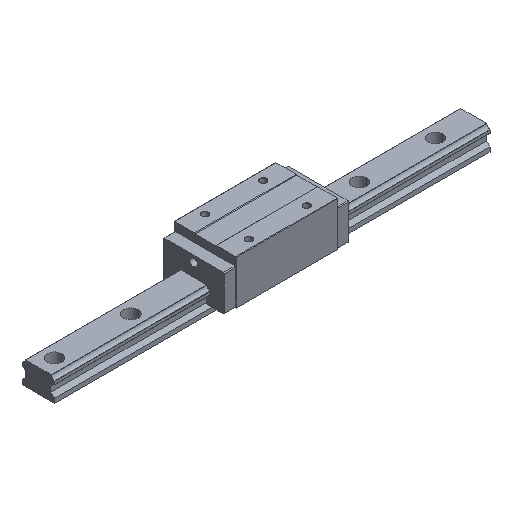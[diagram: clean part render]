
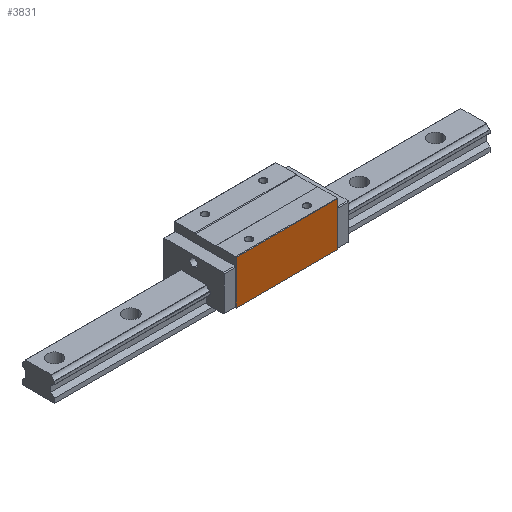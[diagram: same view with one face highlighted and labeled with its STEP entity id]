
A CAD part, isometric view. The second image highlights one B-rep face of the part: STEP entity #3831.
In plain terms, the highlighted planar face has unit normal (0, -1, 0).
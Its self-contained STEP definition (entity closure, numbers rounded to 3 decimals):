
#109 = ORIENTED_EDGE ( 'NONE', *, *, #3535, .T. ) ;
#309 = CARTESIAN_POINT ( 'NONE',  ( -70., -42.5, 69.5 ) ) ;
#524 = CARTESIAN_POINT ( 'NONE',  ( 70., -42.5, 69.5 ) ) ;
#706 = CARTESIAN_POINT ( 'NONE',  ( 70., -42.5, 70. ) ) ;
#766 = ORIENTED_EDGE ( 'NONE', *, *, #2997, .F. ) ;
#931 = LINE ( 'NONE', #5001, #3664 ) ;
#997 = VERTEX_POINT ( 'NONE', #4928 ) ;
#1215 = DIRECTION ( 'NONE',  ( -1., 0., 0. ) ) ;
#1239 = VERTEX_POINT ( 'NONE', #309 ) ;
#1308 = EDGE_CURVE ( 'NONE', #997, #3160, #4502, .T. ) ;
#1528 = ORIENTED_EDGE ( 'NONE', *, *, #1308, .F. ) ;
#1584 = LINE ( 'NONE', #2797, #4366 ) ;
#1837 = VERTEX_POINT ( 'NONE', #3597 ) ;
#1866 = AXIS2_PLACEMENT_3D ( 'NONE', #706, #5246, #1929 ) ;
#1929 = DIRECTION ( 'NONE',  ( 1., 0., 0. ) ) ;
#2026 = CARTESIAN_POINT ( 'NONE',  ( 70., -42.5, 8.9 ) ) ;
#2356 = PLANE ( 'NONE',  #1866 ) ;
#2543 = DIRECTION ( 'NONE',  ( 0., 0., -1. ) ) ;
#2607 = VECTOR ( 'NONE', #1215, 1000. ) ;
#2797 = CARTESIAN_POINT ( 'NONE',  ( 70., -42.5, 70. ) ) ;
#2997 = EDGE_CURVE ( 'NONE', #1837, #997, #1584, .T. ) ;
#3160 = VERTEX_POINT ( 'NONE', #4536 ) ;
#3352 = DIRECTION ( 'NONE',  ( -1., 0., 0. ) ) ;
#3535 = EDGE_CURVE ( 'NONE', #1239, #3160, #931, .T. ) ;
#3540 = EDGE_CURVE ( 'NONE', #1837, #1239, #4958, .T. ) ;
#3597 = CARTESIAN_POINT ( 'NONE',  ( 70., -42.5, 69.5 ) ) ;
#3664 = VECTOR ( 'NONE', #2543, 1000. ) ;
#3831 = ADVANCED_FACE ( 'NONE', ( #4015 ), #2356, .F. ) ;
#4015 = FACE_OUTER_BOUND ( 'NONE', #4927, .T. ) ;
#4028 = DIRECTION ( 'NONE',  ( 0., 0., -1. ) ) ;
#4366 = VECTOR ( 'NONE', #4028, 1000. ) ;
#4426 = VECTOR ( 'NONE', #3352, 1000. ) ;
#4502 = LINE ( 'NONE', #2026, #2607 ) ;
#4536 = CARTESIAN_POINT ( 'NONE',  ( -70., -42.5, 8.9 ) ) ;
#4817 = ORIENTED_EDGE ( 'NONE', *, *, #3540, .T. ) ;
#4927 = EDGE_LOOP ( 'NONE', ( #766, #4817, #109, #1528 ) ) ;
#4928 = CARTESIAN_POINT ( 'NONE',  ( 70., -42.5, 8.9 ) ) ;
#4958 = LINE ( 'NONE', #524, #4426 ) ;
#5001 = CARTESIAN_POINT ( 'NONE',  ( -70., -42.5, 70. ) ) ;
#5246 = DIRECTION ( 'NONE',  ( 0., 1., 0. ) ) ;
